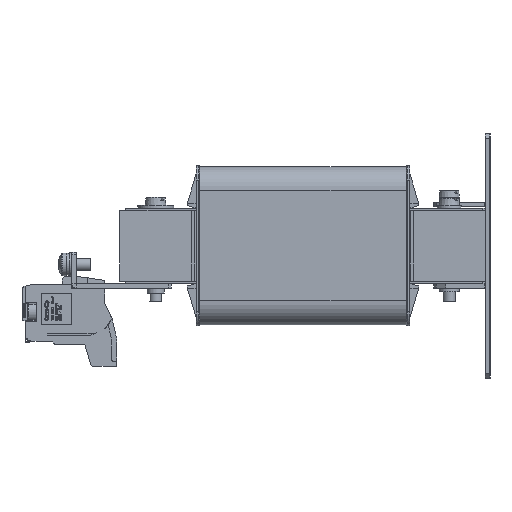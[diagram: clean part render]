
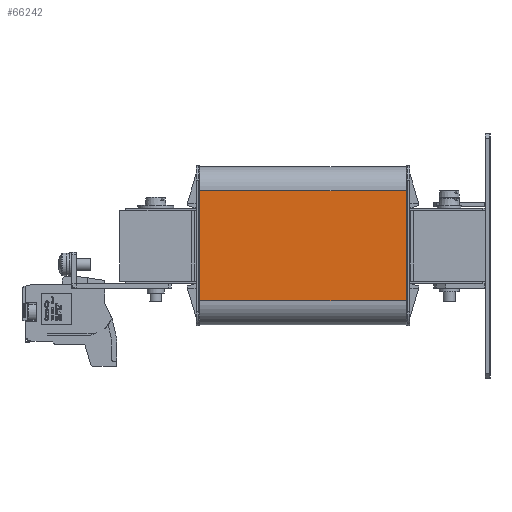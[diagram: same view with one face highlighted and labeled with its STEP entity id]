
A CAD part, left-side view. The second image highlights one B-rep face of the part: STEP entity #66242.
In plain terms, the highlighted planar face has unit normal (-1, 0, 0).
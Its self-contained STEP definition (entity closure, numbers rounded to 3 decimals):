
#2533 = DIRECTION ( 'NONE',  ( 0., 0., -1. ) ) ;
#4946 = CARTESIAN_POINT ( 'NONE',  ( 0., 86.2, -10. ) ) ;
#5078 = LINE ( 'NONE', #68818, #48748 ) ;
#7799 = CARTESIAN_POINT ( 'NONE',  ( 0., 86.2, 0. ) ) ;
#9298 = CARTESIAN_POINT ( 'NONE',  ( 0., 0., 0. ) ) ;
#9672 = CARTESIAN_POINT ( 'NONE',  ( 0., 86.2, -10. ) ) ;
#13710 = DIRECTION ( 'NONE',  ( 0., 1., 0. ) ) ;
#14594 = VERTEX_POINT ( 'NONE', #46932 ) ;
#19718 = PLANE ( 'NONE',  #57016 ) ;
#21295 = FACE_OUTER_BOUND ( 'NONE', #79781, .T. ) ;
#22296 = EDGE_CURVE ( 'NONE', #14594, #96854, #104516, .T. ) ;
#26536 = EDGE_CURVE ( 'NONE', #33104, #103819, #5078, .T. ) ;
#27838 = EDGE_CURVE ( 'NONE', #33104, #96854, #62167, .T. ) ;
#33104 = VERTEX_POINT ( 'NONE', #65186 ) ;
#34884 = VECTOR ( 'NONE', #13710, 1000. ) ;
#42837 = DIRECTION ( 'NONE',  ( 0., 0., 1. ) ) ;
#44379 = ORIENTED_EDGE ( 'NONE', *, *, #26536, .T. ) ;
#46932 = CARTESIAN_POINT ( 'NONE',  ( 0., 0., -10. ) ) ;
#48748 = VECTOR ( 'NONE', #86327, 1000. ) ;
#51105 = ORIENTED_EDGE ( 'NONE', *, *, #27838, .F. ) ;
#52781 = DIRECTION ( 'NONE',  ( 0., 0., 1. ) ) ;
#54782 = DIRECTION ( 'NONE',  ( 1., 0., 0. ) ) ;
#57016 = AXIS2_PLACEMENT_3D ( 'NONE', #107016, #54782, #2533 ) ;
#62167 = LINE ( 'NONE', #7799, #77080 ) ;
#65186 = CARTESIAN_POINT ( 'NONE',  ( 0., 86.2, -56. ) ) ;
#66242 = ADVANCED_FACE ( 'NONE', ( #21295 ), #19718, .F. ) ;
#68818 = CARTESIAN_POINT ( 'NONE',  ( 0., 86.2, -56. ) ) ;
#77080 = VECTOR ( 'NONE', #42837, 1000. ) ;
#79781 = EDGE_LOOP ( 'NONE', ( #51105, #44379, #97863, #84557 ) ) ;
#83807 = VECTOR ( 'NONE', #52781, 1000. ) ;
#84557 = ORIENTED_EDGE ( 'NONE', *, *, #22296, .T. ) ;
#86327 = DIRECTION ( 'NONE',  ( 0., -1., 0. ) ) ;
#96854 = VERTEX_POINT ( 'NONE', #9672 ) ;
#97863 = ORIENTED_EDGE ( 'NONE', *, *, #113040, .T. ) ;
#103819 = VERTEX_POINT ( 'NONE', #108643 ) ;
#104516 = LINE ( 'NONE', #4946, #34884 ) ;
#107016 = CARTESIAN_POINT ( 'NONE',  ( 0., 86.2, 0. ) ) ;
#108643 = CARTESIAN_POINT ( 'NONE',  ( 0., 0., -56. ) ) ;
#109722 = LINE ( 'NONE', #9298, #83807 ) ;
#113040 = EDGE_CURVE ( 'NONE', #103819, #14594, #109722, .T. ) ;
